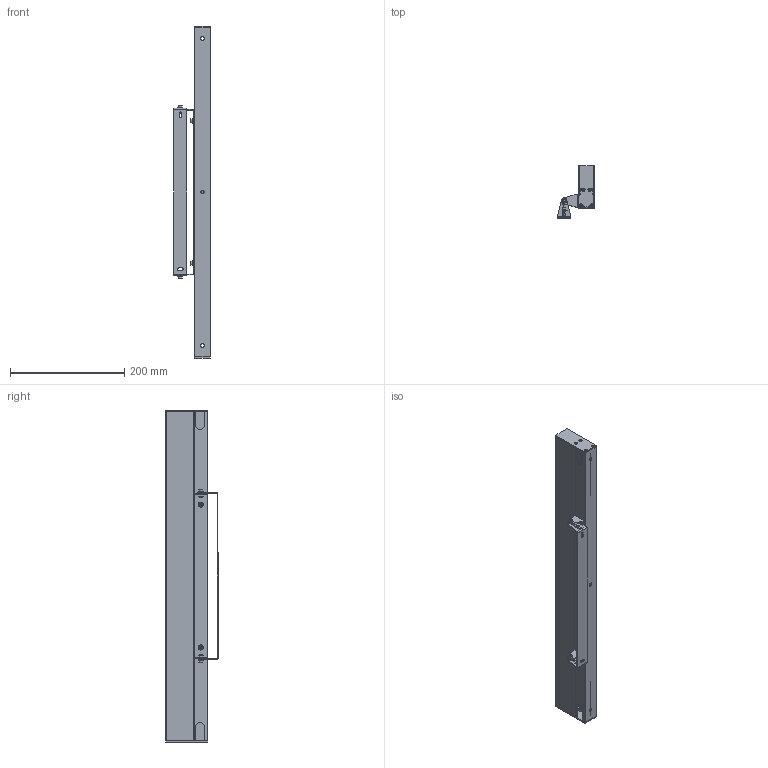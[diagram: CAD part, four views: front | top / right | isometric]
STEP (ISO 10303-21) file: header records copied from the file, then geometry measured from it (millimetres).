
FILE_DESCRIPTION(/* description */ ('Unknown'),/* implementation_level */ '2;1');
FILE_NAME(/* name */ '98843',/* time_stamp */ '2023-02-07T08:10:43-05:00',/* author */ ('Unknown'),/* organization */ ('Unknown'),/* preprocessor_version */ 'ST-DEVELOPER v18.1',/* originating_system */ 'Solid Edge',/* authorisation */ 'Unknown');
FILE_SCHEMA (('AUTOMOTIVE_DESIGN {1 0 10303 214 3 1 1}'));
Length unit declared in the file: millimetre
Products named in the file (11): CONTROCASSA WALL 2017; L-PR021; L-PR0166; LED-VIT183; LED-RON001; LED-RON002; LED-DAD026; LED-TAP136; LED-STA508; LED-STA507; LED-VIT002
Assembly tree (26 placements, depth 2):
  CONTROCASSA WALL 2017
    L-PR021
    L-PR0166
    LED-VIT183  x4
    LED-RON001  x2
    LED-RON002  x2
    LED-DAD026  x4
    LED-TAP136  x2
    LED-STA508
    LED-STA507
    LED-VIT002  x8
Bounding box: 64.75 x 91 x 581 mm (x, y, z)
Volume: 248441.2 mm3; surface area: 310012.5 mm2
Topology: 26 solids, 26 shells, 1536 faces, 3819 edges, 2296 vertices
Faces by surface type: plane 715, cylinder 517, torus 164, sphere 64, cone 60, bspline 16
Full cylindrical faces by diameter (mm): 3 x8, 3.2 x8, 3.422 x4, 3.98 x4, 4 x10, 4.2 x6, 4.5 x2, 6 x5, 7 x4, 7.9 x2, 9 x2
Entity records: 22798 total; most frequent: CARTESIAN_POINT 4740, ORIENTED_EDGE 3482, DIRECTION 3448, EDGE_CURVE 1741, AXIS2_PLACEMENT_3D 1193, VERTEX_POINT 1149, LINE 1062, VECTOR 1062
